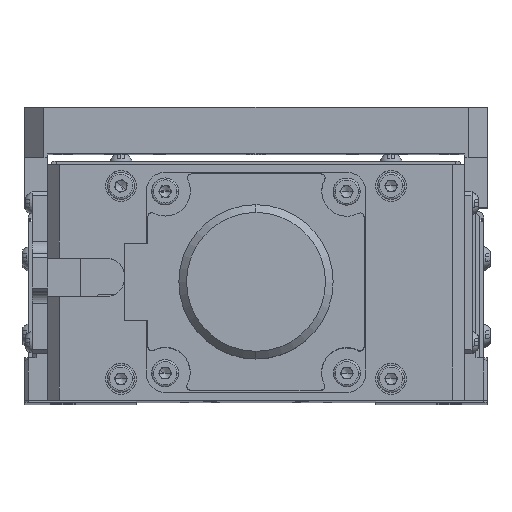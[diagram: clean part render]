
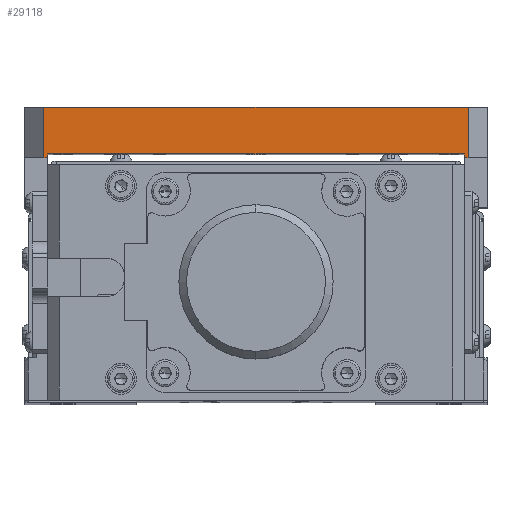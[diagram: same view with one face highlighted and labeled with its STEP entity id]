
A CAD part, top view. The second image highlights one B-rep face of the part: STEP entity #29118.
In plain terms, the highlighted planar face has unit normal (0, 0, 1).
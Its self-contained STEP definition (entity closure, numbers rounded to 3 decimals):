
#1452 = VERTEX_POINT ( 'NONE', #2507 ) ;
#2507 = CARTESIAN_POINT ( 'NONE',  ( -55., 76.5, 130.2 ) ) ;
#2513 = ORIENTED_EDGE ( 'NONE', *, *, #32517, .T. ) ;
#4071 = VECTOR ( 'NONE', #35268, 1000. ) ;
#4427 = EDGE_CURVE ( 'NONE', #25310, #8813, #32568, .T. ) ;
#4615 = DIRECTION ( 'NONE',  ( 0., 0., -1. ) ) ;
#4857 = CARTESIAN_POINT ( 'NONE',  ( 55., 76.5, 130.2 ) ) ;
#5337 = CARTESIAN_POINT ( 'NONE',  ( -55., 63.5, 130.2 ) ) ;
#5567 = ORIENTED_EDGE ( 'NONE', *, *, #4427, .T. ) ;
#6206 = DIRECTION ( 'NONE',  ( 0., -1., 0. ) ) ;
#6303 = CARTESIAN_POINT ( 'NONE',  ( 54., 64.5, 130.2 ) ) ;
#6525 = VECTOR ( 'NONE', #28410, 1000. ) ;
#6822 = LINE ( 'NONE', #11985, #16740 ) ;
#7773 = LINE ( 'NONE', #11731, #33450 ) ;
#7892 = LINE ( 'NONE', #8720, #37219 ) ;
#8195 = CARTESIAN_POINT ( 'NONE',  ( -54., 64.5, 130.2 ) ) ;
#8308 = CARTESIAN_POINT ( 'NONE',  ( -54., 64.5, 130.2 ) ) ;
#8720 = CARTESIAN_POINT ( 'NONE',  ( -55., 76.5, 130.2 ) ) ;
#8813 = VERTEX_POINT ( 'NONE', #30311 ) ;
#8923 = VECTOR ( 'NONE', #30091, 1000. ) ;
#9225 = ORIENTED_EDGE ( 'NONE', *, *, #9483, .T. ) ;
#9483 = EDGE_CURVE ( 'NONE', #24251, #14788, #7773, .T. ) ;
#9995 = EDGE_LOOP ( 'NONE', ( #12958, #12079, #5567, #13855, #36236, #9225, #2513, #31878 ) ) ;
#10747 = LINE ( 'NONE', #29966, #8923 ) ;
#10960 = DIRECTION ( 'NONE',  ( 0., -1., 0. ) ) ;
#11731 = CARTESIAN_POINT ( 'NONE',  ( 54., 64.5, 130.2 ) ) ;
#11749 = LINE ( 'NONE', #8195, #14861 ) ;
#11985 = CARTESIAN_POINT ( 'NONE',  ( 54., 64.5, 130.2 ) ) ;
#12079 = ORIENTED_EDGE ( 'NONE', *, *, #34035, .T. ) ;
#12922 = AXIS2_PLACEMENT_3D ( 'NONE', #36379, #4615, #30539 ) ;
#12958 = ORIENTED_EDGE ( 'NONE', *, *, #28706, .F. ) ;
#13855 = ORIENTED_EDGE ( 'NONE', *, *, #25697, .F. ) ;
#14788 = VERTEX_POINT ( 'NONE', #37181 ) ;
#14861 = VECTOR ( 'NONE', #10960, 1000. ) ;
#16740 = VECTOR ( 'NONE', #32385, 1000. ) ;
#17256 = VECTOR ( 'NONE', #19100, 1000. ) ;
#18823 = PLANE ( 'NONE',  #12922 ) ;
#19043 = VERTEX_POINT ( 'NONE', #8308 ) ;
#19100 = DIRECTION ( 'NONE',  ( 1., 0., 0. ) ) ;
#20857 = FACE_OUTER_BOUND ( 'NONE', #9995, .T. ) ;
#22123 = CARTESIAN_POINT ( 'NONE',  ( 60., 63.5, 130.2 ) ) ;
#23431 = DIRECTION ( 'NONE',  ( 0., -1., 0. ) ) ;
#24251 = VERTEX_POINT ( 'NONE', #6303 ) ;
#24462 = VERTEX_POINT ( 'NONE', #33467 ) ;
#25310 = VERTEX_POINT ( 'NONE', #5337 ) ;
#25338 = EDGE_CURVE ( 'NONE', #24251, #19043, #6822, .T. ) ;
#25697 = EDGE_CURVE ( 'NONE', #19043, #8813, #11749, .T. ) ;
#26145 = CARTESIAN_POINT ( 'NONE',  ( 55., 76.5, 130.2 ) ) ;
#28123 = VERTEX_POINT ( 'NONE', #4857 ) ;
#28410 = DIRECTION ( 'NONE',  ( 1., 0., 0. ) ) ;
#28706 = EDGE_CURVE ( 'NONE', #1452, #28123, #30374, .T. ) ;
#29118 = ADVANCED_FACE ( 'NONE', ( #20857 ), #18823, .F. ) ;
#29966 = CARTESIAN_POINT ( 'NONE',  ( 60., 63.5, 130.2 ) ) ;
#30091 = DIRECTION ( 'NONE',  ( 1., 0., 0. ) ) ;
#30311 = CARTESIAN_POINT ( 'NONE',  ( -54., 63.5, 130.2 ) ) ;
#30374 = LINE ( 'NONE', #33855, #6525 ) ;
#30539 = DIRECTION ( 'NONE',  ( -1., 0., 0. ) ) ;
#31090 = LINE ( 'NONE', #26145, #4071 ) ;
#31878 = ORIENTED_EDGE ( 'NONE', *, *, #37027, .T. ) ;
#32385 = DIRECTION ( 'NONE',  ( -1., 0., 0. ) ) ;
#32517 = EDGE_CURVE ( 'NONE', #14788, #24462, #10747, .T. ) ;
#32568 = LINE ( 'NONE', #22123, #17256 ) ;
#33450 = VECTOR ( 'NONE', #6206, 1000. ) ;
#33467 = CARTESIAN_POINT ( 'NONE',  ( 55., 63.5, 130.2 ) ) ;
#33855 = CARTESIAN_POINT ( 'NONE',  ( 60., 76.5, 130.2 ) ) ;
#34035 = EDGE_CURVE ( 'NONE', #1452, #25310, #7892, .T. ) ;
#35268 = DIRECTION ( 'NONE',  ( 0., 1., 0. ) ) ;
#36236 = ORIENTED_EDGE ( 'NONE', *, *, #25338, .F. ) ;
#36379 = CARTESIAN_POINT ( 'NONE',  ( 60., 76.5, 130.2 ) ) ;
#37027 = EDGE_CURVE ( 'NONE', #24462, #28123, #31090, .T. ) ;
#37181 = CARTESIAN_POINT ( 'NONE',  ( 54., 63.5, 130.2 ) ) ;
#37219 = VECTOR ( 'NONE', #23431, 1000. ) ;
